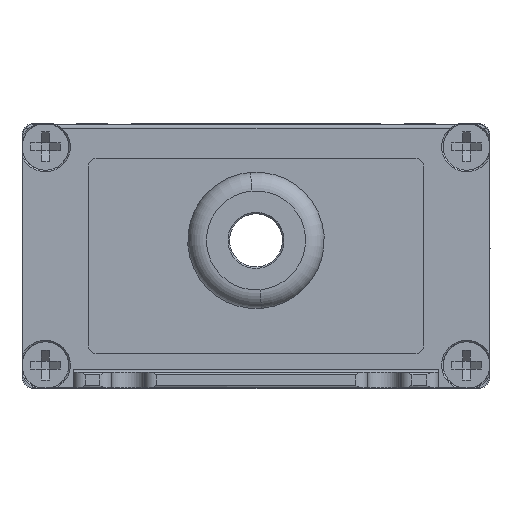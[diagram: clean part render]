
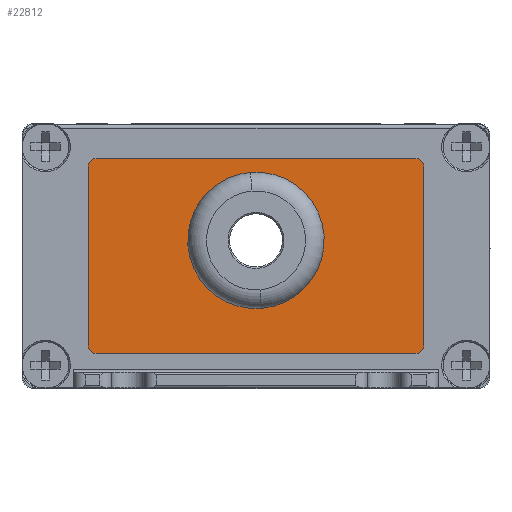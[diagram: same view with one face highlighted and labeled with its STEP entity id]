
A CAD part, front view. The second image highlights one B-rep face of the part: STEP entity #22812.
In plain terms, the highlighted planar face has unit normal (0, -1, 0).
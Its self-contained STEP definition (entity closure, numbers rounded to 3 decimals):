
#9188=CARTESIAN_POINT('',(-36.9,6.5,28.4));
#9189=DIRECTION('',(0.,-1.,0.));
#9190=DIRECTION('',(0.,0.,1.));
#9191=AXIS2_PLACEMENT_3D('',#9188,#9189,#9190);
#9196=CARTESIAN_POINT('',(4.1,6.5,28.4));
#9197=DIRECTION('',(0.,-1.,0.));
#9198=DIRECTION('',(1.,0.,0.));
#9199=AXIS2_PLACEMENT_3D('',#9196,#9197,#9198);
#9204=CARTESIAN_POINT('',(4.1,6.5,5.4));
#9205=DIRECTION('',(0.,-1.,0.));
#9206=DIRECTION('',(0.,0.,-1.));
#9207=AXIS2_PLACEMENT_3D('',#9204,#9205,#9206);
#9212=CARTESIAN_POINT('',(-36.9,6.5,5.4));
#9213=DIRECTION('',(0.,-1.,0.));
#9214=DIRECTION('',(-1.,0.,0.));
#9215=AXIS2_PLACEMENT_3D('',#9212,#9213,#9214);
#9220=CARTESIAN_POINT('',(-16.4,6.5,18.9));
#9221=DIRECTION('',(0.,1.,0.));
#9222=DIRECTION('',(-0.08,0.,0.997));
#9223=AXIS2_PLACEMENT_3D('',#9220,#9221,#9222);
#9228=CARTESIAN_POINT('',(-16.4,6.5,18.9));
#9229=DIRECTION('',(0.,1.,0.));
#9230=DIRECTION('',(0.08,0.,-0.997));
#9231=AXIS2_PLACEMENT_3D('',#9228,#9229,#9230);
#9243=DIRECTION('',(0.,0.,-1.));
#9244=VECTOR('',#9243,23.);
#9245=CARTESIAN_POINT('',(-37.9,6.5,28.4));
#9246=LINE('',#9245,#9244);
#9264=DIRECTION('',(-1.,0.,0.));
#9265=VECTOR('',#9264,41.);
#9266=CARTESIAN_POINT('',(4.1,6.5,29.4));
#9267=LINE('',#9266,#9265);
#9292=DIRECTION('',(0.,0.,1.));
#9293=VECTOR('',#9292,23.);
#9294=CARTESIAN_POINT('',(5.1,6.5,5.4));
#9295=LINE('',#9294,#9293);
#9320=DIRECTION('',(1.,0.,0.));
#9321=VECTOR('',#9320,41.);
#9322=CARTESIAN_POINT('',(-36.9,6.5,4.4));
#9323=LINE('',#9322,#9321);
#11361=CARTESIAN_POINT('',(-37.9,6.5,28.4));
#11362=CARTESIAN_POINT('',(-37.9,6.5,5.4));
#11363=VERTEX_POINT('',#11361);
#11364=VERTEX_POINT('',#11362);
#11365=CARTESIAN_POINT('',(-36.9,6.5,29.4));
#11366=VERTEX_POINT('',#11365);
#11367=CARTESIAN_POINT('',(4.1,6.5,29.4));
#11368=VERTEX_POINT('',#11367);
#11369=CARTESIAN_POINT('',(5.1,6.5,28.4));
#11370=VERTEX_POINT('',#11369);
#11371=CARTESIAN_POINT('',(5.1,6.5,5.4));
#11372=VERTEX_POINT('',#11371);
#11373=CARTESIAN_POINT('',(4.1,6.5,4.4));
#11374=VERTEX_POINT('',#11373);
#11375=CARTESIAN_POINT('',(-36.9,6.5,4.4));
#11376=VERTEX_POINT('',#11375);
#12507=CARTESIAN_POINT('',(-17.102,6.5,27.622));
#12508=CARTESIAN_POINT('',(-15.698,6.5,10.178));
#12509=VERTEX_POINT('',#12507);
#12510=VERTEX_POINT('',#12508);
#22784=CARTESIAN_POINT('',(-16.4,6.5,16.9));
#22785=DIRECTION('',(0.,1.,0.));
#22786=DIRECTION('',(1.,0.,0.));
#22787=AXIS2_PLACEMENT_3D('',#22784,#22785,#22786);
#22788=PLANE('',#22787);
#22790=ORIENTED_EDGE('',*,*,#22789,.F.);
#22792=ORIENTED_EDGE('',*,*,#22791,.F.);
#22794=ORIENTED_EDGE('',*,*,#22793,.F.);
#22796=ORIENTED_EDGE('',*,*,#22795,.F.);
#22798=ORIENTED_EDGE('',*,*,#22797,.F.);
#22800=ORIENTED_EDGE('',*,*,#22799,.F.);
#22802=ORIENTED_EDGE('',*,*,#22801,.F.);
#22804=ORIENTED_EDGE('',*,*,#22803,.F.);
#22805=EDGE_LOOP('',(#22790,#22792,#22794,#22796,#22798,#22800,#22802,#22804));
#22806=FACE_OUTER_BOUND('',#22805,.F.);
#22807=ORIENTED_EDGE('',*,*,#22767,.F.);
#22809=ORIENTED_EDGE('',*,*,#22808,.F.);
#22810=EDGE_LOOP('',(#22807,#22809));
#22811=FACE_BOUND('',#22810,.F.);
#9192=CIRCLE('',#9191,1.);
#9200=CIRCLE('',#9199,1.);
#9208=CIRCLE('',#9207,1.);
#9216=CIRCLE('',#9215,1.);
#9224=CIRCLE('',#9223,8.75);
#9232=CIRCLE('',#9231,8.75);
#22767=EDGE_CURVE('',#12509,#12510,#9224,.T.);
#22789=EDGE_CURVE('',#11363,#11364,#9246,.T.);
#22791=EDGE_CURVE('',#11366,#11363,#9192,.T.);
#22793=EDGE_CURVE('',#11368,#11366,#9267,.T.);
#22795=EDGE_CURVE('',#11370,#11368,#9200,.T.);
#22797=EDGE_CURVE('',#11372,#11370,#9295,.T.);
#22799=EDGE_CURVE('',#11374,#11372,#9208,.T.);
#22801=EDGE_CURVE('',#11376,#11374,#9323,.T.);
#22803=EDGE_CURVE('',#11364,#11376,#9216,.T.);
#22808=EDGE_CURVE('',#12510,#12509,#9232,.T.);
#22812=ADVANCED_FACE('',(#22806,#22811),#22788,.F.);
